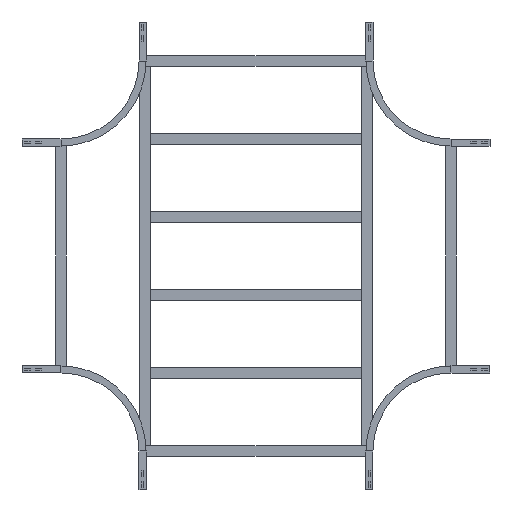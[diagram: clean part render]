
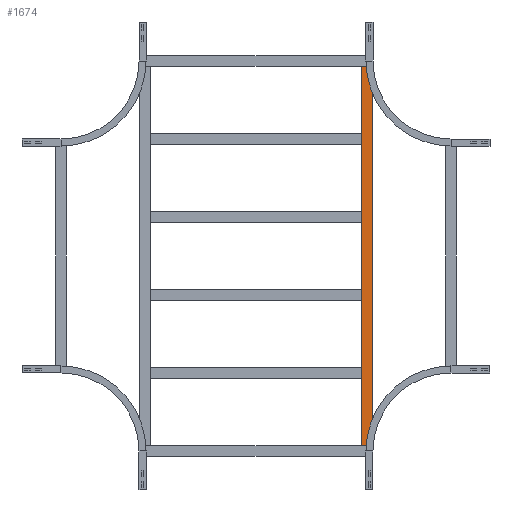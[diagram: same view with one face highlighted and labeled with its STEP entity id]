
A CAD part, front view. The second image highlights one B-rep face of the part: STEP entity #1674.
In plain terms, the highlighted planar face has unit normal (0, -1, 0).
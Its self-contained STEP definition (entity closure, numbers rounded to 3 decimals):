
#152 = VECTOR ( 'NONE', #503, 1000. ) ;
#224 = ORIENTED_EDGE ( 'NONE', *, *, #1797, .F. ) ;
#325 = DIRECTION ( 'NONE',  ( 0., 1., 0. ) ) ;
#503 = DIRECTION ( 'NONE',  ( 0., 0., -1. ) ) ;
#514 = EDGE_CURVE ( 'NONE', #810, #1646, #877, .T. ) ;
#519 = CARTESIAN_POINT ( 'NONE',  ( 729.75, 0., 20.25 ) ) ;
#556 = DIRECTION ( 'NONE',  ( -1., 0., 0. ) ) ;
#605 = CARTESIAN_POINT ( 'NONE',  ( 729.75, 0., -20.25 ) ) ;
#640 = VECTOR ( 'NONE', #826, 1000. ) ;
#675 = DIRECTION ( 'NONE',  ( 0., 0., -1. ) ) ;
#706 = CARTESIAN_POINT ( 'NONE',  ( 729.75, 0., 20.25 ) ) ;
#810 = VERTEX_POINT ( 'NONE', #2013 ) ;
#826 = DIRECTION ( 'NONE',  ( -1., 0., 0. ) ) ;
#877 = LINE ( 'NONE', #1477, #1368 ) ;
#957 = ORIENTED_EDGE ( 'NONE', *, *, #514, .T. ) ;
#1036 = CARTESIAN_POINT ( 'NONE',  ( 729.75, 0., 20.25 ) ) ;
#1134 = CARTESIAN_POINT ( 'NONE',  ( 729.75, 0., -20.25 ) ) ;
#1141 = VERTEX_POINT ( 'NONE', #605 ) ;
#1144 = CARTESIAN_POINT ( 'NONE',  ( -729.75, 0., -20.25 ) ) ;
#1350 = VERTEX_POINT ( 'NONE', #519 ) ;
#1368 = VECTOR ( 'NONE', #675, 1000. ) ;
#1477 = CARTESIAN_POINT ( 'NONE',  ( -729.75, 0., 20.25 ) ) ;
#1571 = AXIS2_PLACEMENT_3D ( 'NONE', #706, #325, #1915 ) ;
#1646 = VERTEX_POINT ( 'NONE', #1144 ) ;
#1648 = LINE ( 'NONE', #2412, #152 ) ;
#1674 = ADVANCED_FACE ( 'NONE', ( #2443 ), #1675, .F. ) ;
#1675 = PLANE ( 'NONE',  #1571 ) ;
#1797 = EDGE_CURVE ( 'NONE', #1141, #1646, #2092, .T. ) ;
#1915 = DIRECTION ( 'NONE',  ( 0., 0., 1. ) ) ;
#2013 = CARTESIAN_POINT ( 'NONE',  ( -729.75, 0., 20.25 ) ) ;
#2049 = EDGE_LOOP ( 'NONE', ( #957, #224, #2404, #2239 ) ) ;
#2053 = EDGE_CURVE ( 'NONE', #1350, #1141, #1648, .T. ) ;
#2092 = LINE ( 'NONE', #1134, #2136 ) ;
#2136 = VECTOR ( 'NONE', #556, 1000. ) ;
#2239 = ORIENTED_EDGE ( 'NONE', *, *, #2275, .T. ) ;
#2275 = EDGE_CURVE ( 'NONE', #1350, #810, #2390, .T. ) ;
#2390 = LINE ( 'NONE', #1036, #640 ) ;
#2404 = ORIENTED_EDGE ( 'NONE', *, *, #2053, .F. ) ;
#2412 = CARTESIAN_POINT ( 'NONE',  ( 729.75, 0., 20.25 ) ) ;
#2443 = FACE_OUTER_BOUND ( 'NONE', #2049, .T. ) ;
